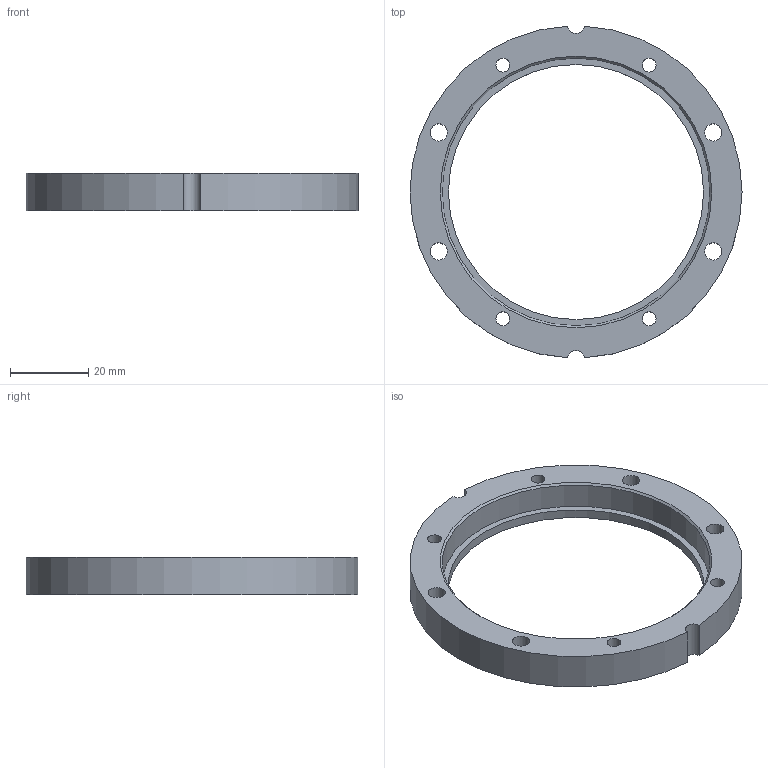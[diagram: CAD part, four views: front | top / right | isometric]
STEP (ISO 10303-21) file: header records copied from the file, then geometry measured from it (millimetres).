
FILE_DESCRIPTION(/* description */ ('Alibre Inc.'),/* implementation_level */ '2;1');
FILE_NAME(/* name */ 'export-27966548-C664-44DF-94A3-96A42F2380C2',/* time_stamp */ '2026-01-19T12:38:37+00:00',/* author */ (''),/* organization */ (''),/* preprocessor_version */ 'ST-DEVELOPER v17',/* originating_system */ 'Alibre',/* authorisation */ '');
FILE_SCHEMA (('CONFIG_CONTROL_DESIGN'));
Length unit declared in the file: millimetre
Bounding box: 84.6 x 84.49 x 9.5 mm (x, y, z)
Volume: 18263.5 mm3; surface area: 9946.1 mm2
Topology: 1 solids, 1 shells, 34 faces, 81 edges, 54 vertices
Faces by surface type: cylinder 14, plane 11, cone 9
Full cylindrical faces by diameter (mm): 3.5 x4, 4.4 x4, 65 x1, 68.2 x1
Entity records: 1029 total; most frequent: CARTESIAN_POINT 169, DIRECTION 153, ORIENTED_EDGE 138, AXIS2_PLACEMENT_3D 72, EDGE_CURVE 69, EDGE_LOOP 68, FACE_BOUND 68, VERTEX_POINT 53
